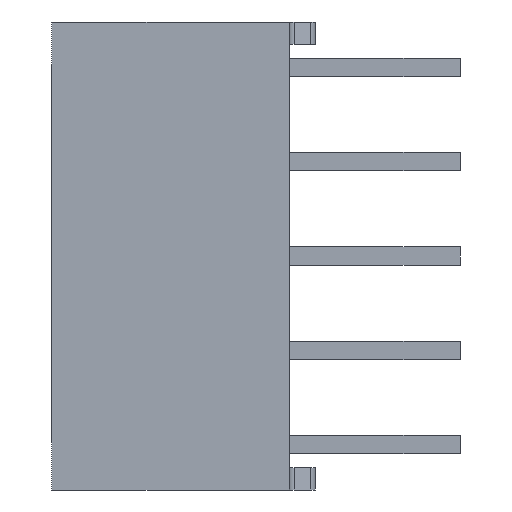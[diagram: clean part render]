
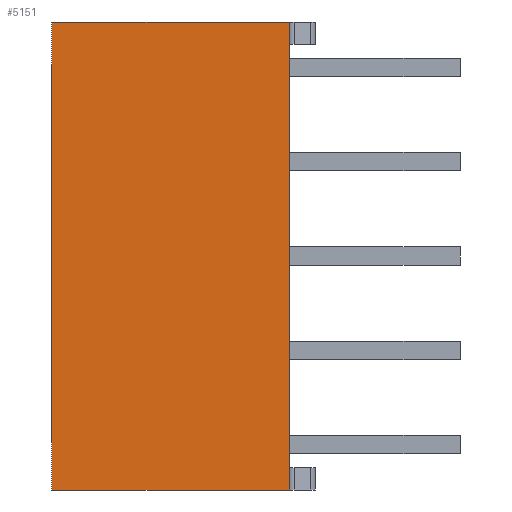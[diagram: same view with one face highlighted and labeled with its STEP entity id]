
A CAD part, left-side view. The second image highlights one B-rep face of the part: STEP entity #5151.
In plain terms, the highlighted planar face has unit normal (-1, 0, 0).
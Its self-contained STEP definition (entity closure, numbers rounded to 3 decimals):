
#44 = CARTESIAN_POINT ( 'NONE',  ( -4.725, 0.7, 5.7 ) ) ;
#663 = CARTESIAN_POINT ( 'NONE',  ( -4.725, 0.7, 6.3 ) ) ;
#674 = VERTEX_POINT ( 'NONE', #2903 ) ;
#851 = DIRECTION ( 'NONE',  ( 0., 0., 1. ) ) ;
#935 = ORIENTED_EDGE ( 'NONE', *, *, #5221, .T. ) ;
#1449 = VERTEX_POINT ( 'NONE', #663 ) ;
#1557 = FACE_OUTER_BOUND ( 'NONE', #5364, .T. ) ;
#1674 = LINE ( 'NONE', #4076, #3658 ) ;
#1852 = VERTEX_POINT ( 'NONE', #5444 ) ;
#1865 = PLANE ( 'NONE',  #3103 ) ;
#1890 = DIRECTION ( 'NONE',  ( 0., 0., 1. ) ) ;
#1916 = DIRECTION ( 'NONE',  ( 1., 0., 0. ) ) ;
#2583 = EDGE_CURVE ( 'NONE', #674, #1449, #1674, .T. ) ;
#2589 = ORIENTED_EDGE ( 'NONE', *, *, #2583, .F. ) ;
#2614 = ORIENTED_EDGE ( 'NONE', *, *, #3814, .T. ) ;
#2697 = CARTESIAN_POINT ( 'NONE',  ( -4.725, 7.1, 6.3 ) ) ;
#2903 = CARTESIAN_POINT ( 'NONE',  ( -4.725, 7.1, 6.3 ) ) ;
#3063 = VECTOR ( 'NONE', #1890, 1000. ) ;
#3103 = AXIS2_PLACEMENT_3D ( 'NONE', #5453, #1916, #5414 ) ;
#3506 = LINE ( 'NONE', #3951, #5654 ) ;
#3658 = VECTOR ( 'NONE', #4494, 1000. ) ;
#3814 = EDGE_CURVE ( 'NONE', #1852, #1449, #5069, .T. ) ;
#3951 = CARTESIAN_POINT ( 'NONE',  ( -4.725, 7.1, -6.3 ) ) ;
#4076 = CARTESIAN_POINT ( 'NONE',  ( -4.725, 7.1, 6.3 ) ) ;
#4083 = LINE ( 'NONE', #2697, #4096 ) ;
#4096 = VECTOR ( 'NONE', #851, 1000. ) ;
#4318 = CARTESIAN_POINT ( 'NONE',  ( -4.725, 7.1, -6.3 ) ) ;
#4438 = VERTEX_POINT ( 'NONE', #4318 ) ;
#4494 = DIRECTION ( 'NONE',  ( 0., -1., 0. ) ) ;
#4616 = ORIENTED_EDGE ( 'NONE', *, *, #5736, .F. ) ;
#4886 = DIRECTION ( 'NONE',  ( 0., -1., 0. ) ) ;
#5069 = LINE ( 'NONE', #44, #3063 ) ;
#5151 = ADVANCED_FACE ( 'NONE', ( #1557 ), #1865, .F. ) ;
#5221 = EDGE_CURVE ( 'NONE', #4438, #1852, #3506, .T. ) ;
#5364 = EDGE_LOOP ( 'NONE', ( #2614, #2589, #4616, #935 ) ) ;
#5414 = DIRECTION ( 'NONE',  ( 0., 0., -1. ) ) ;
#5444 = CARTESIAN_POINT ( 'NONE',  ( -4.725, 0.7, -6.3 ) ) ;
#5453 = CARTESIAN_POINT ( 'NONE',  ( -4.725, 7.1, 6.3 ) ) ;
#5654 = VECTOR ( 'NONE', #4886, 1000. ) ;
#5736 = EDGE_CURVE ( 'NONE', #4438, #674, #4083, .T. ) ;
